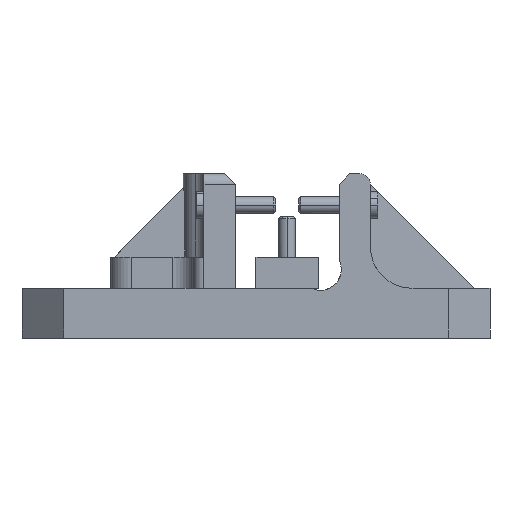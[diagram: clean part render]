
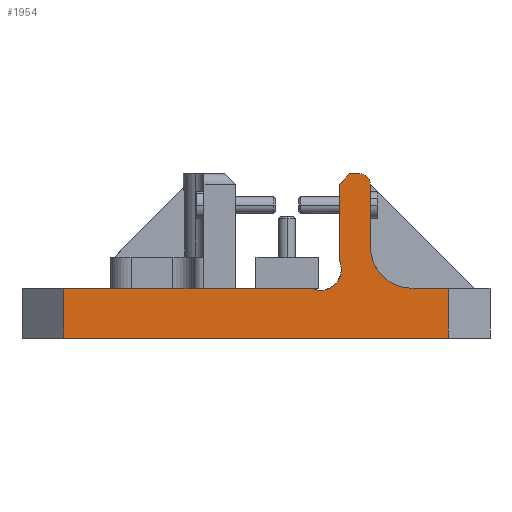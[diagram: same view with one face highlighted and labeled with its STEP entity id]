
A CAD part, front view. The second image highlights one B-rep face of the part: STEP entity #1954.
In plain terms, the highlighted planar face has unit normal (0, -1, 0).
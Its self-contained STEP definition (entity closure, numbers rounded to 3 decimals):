
#1954=ADVANCED_FACE('Pad.6',(#4441),#4442,.F.);
#4441=FACE_OUTER_BOUND('',#7817,.T.);
#4442=PLANE('',#7818);
#7817=EDGE_LOOP('',(#12666,#12667,#12668,#12669,#12670,#12671,#12672,#12673,#12674,#12675,#12676,#12677,#12678));
#7818=AXIS2_PLACEMENT_3D('',#12679,#12680,#12681);
#12666=ORIENTED_EDGE('',*,*,#20007,.T.);
#12667=ORIENTED_EDGE('',*,*,#20008,.T.);
#12668=ORIENTED_EDGE('',*,*,#20009,.F.);
#12669=ORIENTED_EDGE('',*,*,#20010,.T.);
#12670=ORIENTED_EDGE('',*,*,#20005,.F.);
#12671=ORIENTED_EDGE('',*,*,#19982,.T.);
#12672=ORIENTED_EDGE('',*,*,#20011,.T.);
#12673=ORIENTED_EDGE('',*,*,#19959,.T.);
#12674=ORIENTED_EDGE('',*,*,#20012,.T.);
#12675=ORIENTED_EDGE('',*,*,#20013,.F.);
#12676=ORIENTED_EDGE('',*,*,#20014,.T.);
#12677=ORIENTED_EDGE('',*,*,#20015,.T.);
#12678=ORIENTED_EDGE('',*,*,#20016,.T.);
#12679=CARTESIAN_POINT('',(0.0,-157.5,0.0));
#12680=DIRECTION('',(0.0,1.0,0.0));
#12681=DIRECTION('',(0.0,0.0,1.0));
#19959=EDGE_CURVE('',#24023,#24027,#24029,.T.);
#19982=EDGE_CURVE('',#24061,#24066,#24068,.T.);
#20005=EDGE_CURVE('',#24061,#24095,#24099,.F.);
#20007=EDGE_CURVE('',#24101,#24102,#24103,.T.);
#20008=EDGE_CURVE('',#24102,#24104,#24105,.T.);
#20009=EDGE_CURVE('',#24106,#24104,#24107,.T.);
#20010=EDGE_CURVE('',#24106,#24095,#24108,.F.);
#20011=EDGE_CURVE('',#24066,#24023,#24109,.T.);
#20012=EDGE_CURVE('',#24027,#24110,#24111,.T.);
#20013=EDGE_CURVE('',#24112,#24110,#24113,.T.);
#20014=EDGE_CURVE('',#24112,#24114,#24115,.F.);
#20015=EDGE_CURVE('',#24114,#24116,#24117,.T.);
#20016=EDGE_CURVE('',#24116,#24101,#24118,.F.);
#24023=VERTEX_POINT('',#29883);
#24027=VERTEX_POINT('',#29888);
#24029=CIRCLE('',#29891,10.0);
#24061=VERTEX_POINT('',#29931);
#24066=VERTEX_POINT('',#29938);
#24068=LINE('',#29941,#29942);
#24095=VERTEX_POINT('',#29971);
#24099=LINE('',#29977,#29978);
#24101=VERTEX_POINT('',#29980);
#24102=VERTEX_POINT('',#29981);
#24103=CIRCLE('',#29982,20.0);
#24104=VERTEX_POINT('',#29983);
#24105=LINE('',#29984,#29985);
#24106=VERTEX_POINT('',#29986);
#24107=CIRCLE('',#29987,5.0);
#24108=LINE('',#29988,#29989);
#24109=CIRCLE('',#29990,10.0);
#24110=VERTEX_POINT('',#29991);
#24111=LINE('',#29992,#29993);
#24112=VERTEX_POINT('',#29994);
#24113=LINE('',#29995,#29996);
#24114=VERTEX_POINT('',#29997);
#24115=LINE('',#29998,#29999);
#24116=VERTEX_POINT('',#30000);
#24117=LINE('',#30001,#30002);
#24118=LINE('',#30003,#30004);
#29883=CARTESIAN_POINT('',(31.,-157.5,6.));
#29888=CARTESIAN_POINT('',(26.641,-157.5,7.));
#29891=AXIS2_PLACEMENT_3D('',#35740,#35741,#35742);
#29931=CARTESIAN_POINT('',(40.0,-157.5,57.));
#29938=CARTESIAN_POINT('',(40.0,-157.5,20.359));
#29941=CARTESIAN_POINT('',(40.0,-157.5,38.679));
#29942=VECTOR('',#35772,1.0);
#29971=CARTESIAN_POINT('',(45.0,-157.5,62.));
#29977=CARTESIAN_POINT('',(42.5,-157.5,59.5));
#29978=VECTOR('',#35819,1.0);
#29980=CARTESIAN_POINT('',(75.,-157.5,7.));
#29981=CARTESIAN_POINT('',(55.,-157.5,27.));
#29982=AXIS2_PLACEMENT_3D('',#35820,#35821,#35822);
#29983=CARTESIAN_POINT('',(55.,-157.5,57.));
#29984=CARTESIAN_POINT('',(55.,-157.5,42.));
#29985=VECTOR('',#35823,1.0);
#29986=CARTESIAN_POINT('',(50.,-157.5,62.));
#29987=AXIS2_PLACEMENT_3D('',#35824,#35825,#35826);
#29988=CARTESIAN_POINT('',(47.5,-157.5,62.));
#29989=VECTOR('',#35827,1.0);
#29990=AXIS2_PLACEMENT_3D('',#35828,#35829,#35830);
#29991=CARTESIAN_POINT('',(-92.5,-157.5,7.));
#29992=CARTESIAN_POINT('',(-32.929,-157.5,7.));
#29993=VECTOR('',#35831,1.0);
#29994=CARTESIAN_POINT('',(-92.5,-157.5,-17.0));
#29995=CARTESIAN_POINT('',(-92.5,-157.5,-5.));
#29996=VECTOR('',#35832,1.0);
#29997=CARTESIAN_POINT('',(92.5,-157.5,-17.0));
#29998=CARTESIAN_POINT('',(0.,-157.5,-17.0));
#29999=VECTOR('',#35833,1.0);
#30000=CARTESIAN_POINT('',(92.5,-157.5,7.));
#30001=CARTESIAN_POINT('',(92.5,-157.5,-5.));
#30002=VECTOR('',#35834,1.0);
#30003=CARTESIAN_POINT('',(83.75,-157.5,7.));
#30004=VECTOR('',#35835,1.0);
#35740=CARTESIAN_POINT('',(31.,-157.5,16.));
#35741=DIRECTION('',(0.0,1.0,0.0));
#35742=DIRECTION('',(0.0,0.0,1.0));
#35772=DIRECTION('',(0.0,0.0,-1.0));
#35819=DIRECTION('',(-0.707,0.0,-0.707));
#35820=CARTESIAN_POINT('',(75.,-157.5,27.));
#35821=DIRECTION('',(0.0,1.0,0.0));
#35822=DIRECTION('',(0.0,0.0,1.0));
#35823=DIRECTION('',(0.0,0.0,1.0));
#35824=CARTESIAN_POINT('',(50.,-157.5,57.));
#35825=DIRECTION('',(0.0,1.0,0.0));
#35826=DIRECTION('',(0.0,0.0,1.0));
#35827=DIRECTION('',(1.0,0.0,0.0));
#35828=CARTESIAN_POINT('',(31.,-157.5,16.));
#35829=DIRECTION('',(0.0,1.0,0.0));
#35830=DIRECTION('',(0.0,0.0,1.0));
#35831=DIRECTION('',(-1.0,0.0,0.0));
#35832=DIRECTION('',(0.0,0.0,1.0));
#35833=DIRECTION('',(-1.0,0.0,0.0));
#35834=DIRECTION('',(0.0,0.0,1.0));
#35835=DIRECTION('',(1.0,0.0,0.0));
